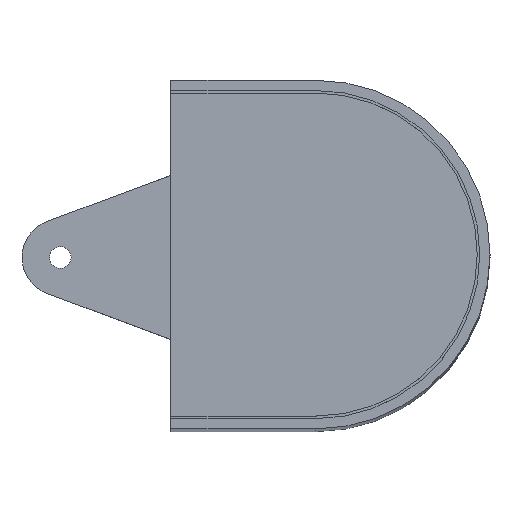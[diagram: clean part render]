
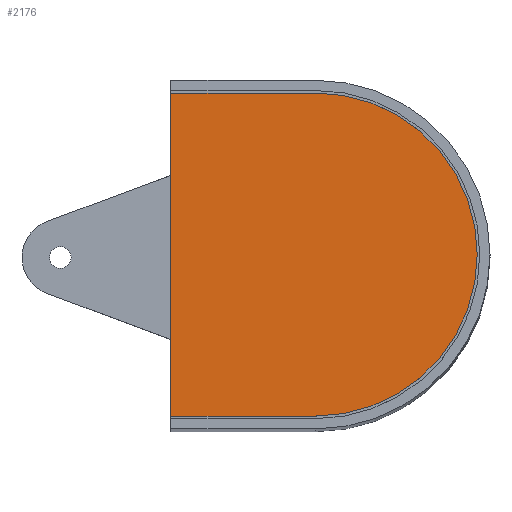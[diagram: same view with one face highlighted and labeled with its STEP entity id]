
A CAD part, top view. The second image highlights one B-rep face of the part: STEP entity #2176.
In plain terms, the highlighted planar face has unit normal (0, 0, 1).
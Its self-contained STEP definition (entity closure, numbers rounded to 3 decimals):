
#8 = PLANE ( 'NONE',  #2433 ) ;
#36 = EDGE_CURVE ( 'NONE', #448, #2399, #1967, .T. ) ;
#276 = CARTESIAN_POINT ( 'NONE',  ( -68.25, 63.25, 325.25 ) ) ;
#299 = CARTESIAN_POINT ( 'NONE',  ( -68.25, -63.25, 325.25 ) ) ;
#340 = ORIENTED_EDGE ( 'NONE', *, *, #1603, .T. ) ;
#368 = CIRCLE ( 'NONE', #1112, 63.25 ) ;
#406 = EDGE_CURVE ( 'NONE', #977, #448, #368, .T. ) ;
#448 = VERTEX_POINT ( 'NONE', #276 ) ;
#454 = FACE_OUTER_BOUND ( 'NONE', #935, .T. ) ;
#902 = ORIENTED_EDGE ( 'NONE', *, *, #36, .T. ) ;
#935 = EDGE_LOOP ( 'NONE', ( #902, #340, #1231, #1443 ) ) ;
#955 = VECTOR ( 'NONE', #1382, 1000. ) ;
#977 = VERTEX_POINT ( 'NONE', #299 ) ;
#1112 = AXIS2_PLACEMENT_3D ( 'NONE', #1903, #1665, #1675 ) ;
#1161 = DIRECTION ( 'NONE',  ( 1., 0., 0. ) ) ;
#1231 = ORIENTED_EDGE ( 'NONE', *, *, #2532, .T. ) ;
#1235 = LINE ( 'NONE', #2059, #2600 ) ;
#1382 = DIRECTION ( 'NONE',  ( 0., -1., 0. ) ) ;
#1443 = ORIENTED_EDGE ( 'NONE', *, *, #406, .T. ) ;
#1603 = EDGE_CURVE ( 'NONE', #2399, #2539, #1987, .T. ) ;
#1616 = CARTESIAN_POINT ( 'NONE',  ( -125., 63.25, 325.25 ) ) ;
#1665 = DIRECTION ( 'NONE',  ( 0., 0., 1. ) ) ;
#1675 = DIRECTION ( 'NONE',  ( 1., 0., 0. ) ) ;
#1770 = CARTESIAN_POINT ( 'NONE',  ( -125., 63.25, 325.25 ) ) ;
#1844 = CARTESIAN_POINT ( 'NONE',  ( -125., -63.25, 325.25 ) ) ;
#1887 = CARTESIAN_POINT ( 'NONE',  ( -68.25, 0., 325.25 ) ) ;
#1903 = CARTESIAN_POINT ( 'NONE',  ( -68.25, 0., 325.25 ) ) ;
#1945 = CARTESIAN_POINT ( 'NONE',  ( -68.25, 63.25, 325.25 ) ) ;
#1967 = LINE ( 'NONE', #1945, #2477 ) ;
#1987 = LINE ( 'NONE', #1770, #955 ) ;
#2059 = CARTESIAN_POINT ( 'NONE',  ( -125., -63.25, 325.25 ) ) ;
#2144 = DIRECTION ( 'NONE',  ( 0., 0., 1. ) ) ;
#2176 = ADVANCED_FACE ( 'NONE', ( #454 ), #8, .T. ) ;
#2360 = DIRECTION ( 'NONE',  ( -1., 0., 0. ) ) ;
#2399 = VERTEX_POINT ( 'NONE', #1616 ) ;
#2433 = AXIS2_PLACEMENT_3D ( 'NONE', #1887, #2144, #1161 ) ;
#2471 = DIRECTION ( 'NONE',  ( 1., 0., 0. ) ) ;
#2477 = VECTOR ( 'NONE', #2360, 1000. ) ;
#2532 = EDGE_CURVE ( 'NONE', #2539, #977, #1235, .T. ) ;
#2539 = VERTEX_POINT ( 'NONE', #1844 ) ;
#2600 = VECTOR ( 'NONE', #2471, 1000. ) ;
